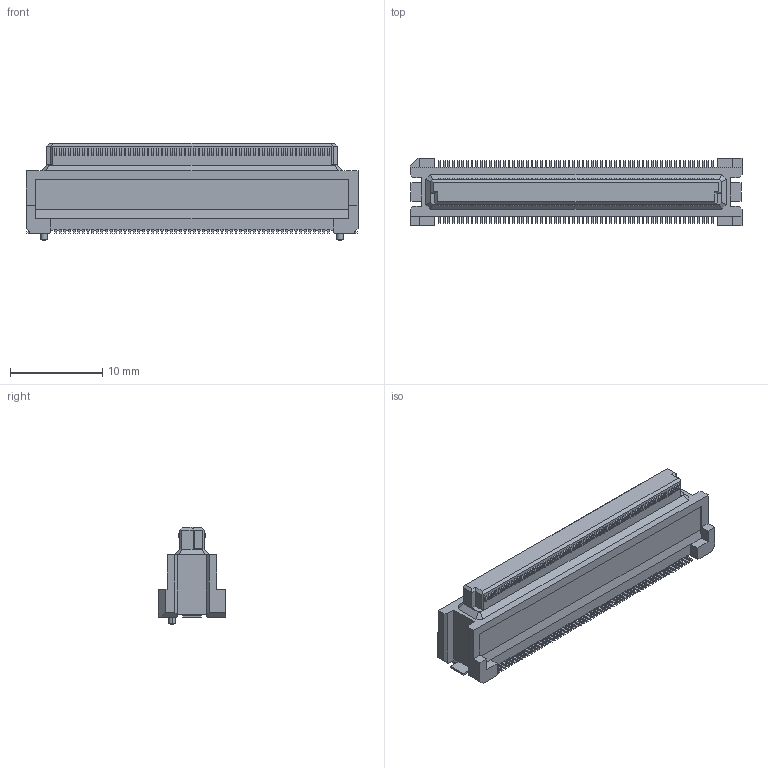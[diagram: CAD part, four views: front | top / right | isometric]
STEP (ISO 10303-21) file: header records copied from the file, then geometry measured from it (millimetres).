
FILE_DESCRIPTION(('Creo Elements/Direct Modeling STEP Export'),'2;1');
FILE_NAME('DY11-120FS-1.stp','2017-11-28T11:23:56',(''),(''),'Creo Elements/Direct Modeling STEP processor for AP214 (Solid Model)','Creo Elements/Direct Modeling 19.0F 14-Feb-2017 (C) Parametric Technology GmbH','');
FILE_SCHEMA(('AUTOMOTIVE_DESIGN { 1 0 10303 214 1 1 1 1 }'));
Products named in the file (2): DY11-120FS-1
Assembly tree (1 placements, depth 2):
  DY11-120FS-1
    DY11-120FS-1
Bounding box: 35.9 x 7.3 x 10.5 mm (x, y, z)
Volume: 1413.8 mm3; surface area: 1379.1 mm2
Topology: 1 solids, 1 shells, 2798 faces, 7969 edges, 5298 vertices
Faces by surface type: plane 2058, cylinder 728, bspline 8, cone 4
Entity records: 87782 total; most frequent: CARTESIAN_POINT 16466, ORIENTED_EDGE 15938, DIRECTION 13730, EDGE_CURVE 7969, VECTOR 5926, LINE 5926, VERTEX_POINT 5298, AXIS2_PLACEMENT_3D 3902
